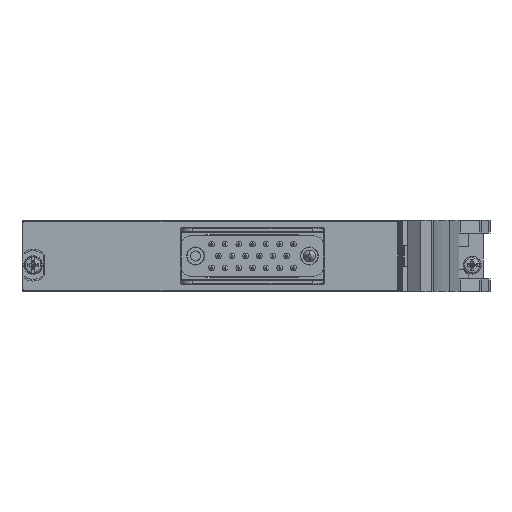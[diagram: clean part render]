
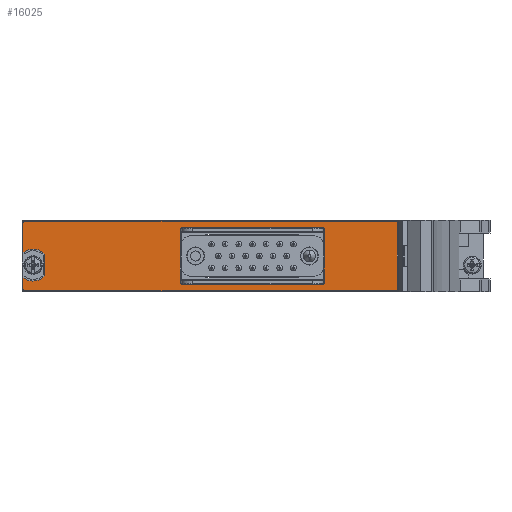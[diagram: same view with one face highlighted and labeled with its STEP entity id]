
A CAD part, left-side view. The second image highlights one B-rep face of the part: STEP entity #16025.
In plain terms, the highlighted planar face has unit normal (-1, 0, 0).
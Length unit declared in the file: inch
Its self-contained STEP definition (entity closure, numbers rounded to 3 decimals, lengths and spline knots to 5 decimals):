
#4060=CARTESIAN_POINT('',(-4.294,0.53465,0.663));
#4061=DIRECTION('',(-1.,0.,0.));
#4062=DIRECTION('',(0.,0.,1.));
#4063=AXIS2_PLACEMENT_3D('',#4060,#4061,#4062);
#4065=DIRECTION('',(0.,1.,0.));
#4066=VECTOR('',#4065,4.07);
#4067=CARTESIAN_POINT('',(-4.294,-3.53535,0.683));
#4068=LINE('',#4067,#4066);
#4069=CARTESIAN_POINT('',(-4.294,-3.53535,0.663));
#4070=DIRECTION('',(-1.,0.,0.));
#4071=DIRECTION('',(0.,-1.,0.));
#4072=AXIS2_PLACEMENT_3D('',#4069,#4070,#4071);
#4074=DIRECTION('',(0.,0.,1.));
#4075=VECTOR('',#4074,0.728);
#4076=CARTESIAN_POINT('',(-4.294,-3.55535,-0.065));
#4077=LINE('',#4076,#4075);
#4078=CARTESIAN_POINT('',(-4.294,-3.53535,-0.065));
#4079=DIRECTION('',(-1.,0.,0.));
#4080=DIRECTION('',(0.,0.,-1.));
#4081=AXIS2_PLACEMENT_3D('',#4078,#4079,#4080);
#4083=DIRECTION('',(0.,-1.,0.));
#4084=VECTOR('',#4083,4.07);
#4085=CARTESIAN_POINT('',(-4.294,0.53465,-0.085));
#4086=LINE('',#4085,#4084);
#4087=CARTESIAN_POINT('',(-4.294,0.53465,-0.065));
#4088=DIRECTION('',(-1.,0.,0.));
#4089=DIRECTION('',(0.,1.,0.));
#4090=AXIS2_PLACEMENT_3D('',#4087,#4088,#4089);
#4092=DIRECTION('',(0.,0.,-1.));
#4093=VECTOR('',#4092,0.12953);
#4094=CARTESIAN_POINT('',(-4.294,0.55465,0.06453));
#4095=LINE('',#4094,#4093);
#4096=CARTESIAN_POINT('',(-4.294,0.44265,0.199));
#4097=DIRECTION('',(1.,0.,0.));
#4098=DIRECTION('',(0.,-0.737,-0.676));
#4099=AXIS2_PLACEMENT_3D('',#4096,#4097,#4098);
#4101=DIRECTION('',(0.,0.,-1.));
#4102=VECTOR('',#4101,0.23651);
#4103=CARTESIAN_POINT('',(-4.294,0.31365,0.31725));
#4104=LINE('',#4103,#4102);
#4105=CARTESIAN_POINT('',(-4.294,0.44265,0.199));
#4106=DIRECTION('',(1.,0.,0.));
#4107=DIRECTION('',(0.,0.64,0.768));
#4108=AXIS2_PLACEMENT_3D('',#4105,#4106,#4107);
#4110=DIRECTION('',(0.,0.,-1.));
#4111=VECTOR('',#4110,0.32953);
#4112=CARTESIAN_POINT('',(-4.294,0.55465,0.663));
#4113=LINE('',#4112,#4111);
#4114=DIRECTION('',(0.,1.,0.));
#4115=VECTOR('',#4114,1.52);
#4116=CARTESIAN_POINT('',(-4.294,-2.72535,0.616));
#4117=LINE('',#4116,#4115);
#4118=DIRECTION('',(0.,0.,-1.));
#4119=VECTOR('',#4118,0.573);
#4120=CARTESIAN_POINT('',(-4.294,-1.17535,0.586));
#4121=LINE('',#4120,#4119);
#4122=DIRECTION('',(0.,-1.,0.));
#4123=VECTOR('',#4122,1.52);
#4124=CARTESIAN_POINT('',(-4.294,-1.20535,-0.017));
#4125=LINE('',#4124,#4123);
#4126=DIRECTION('',(0.,0.,1.));
#4127=VECTOR('',#4126,0.573);
#4128=CARTESIAN_POINT('',(-4.294,-2.75535,0.013));
#4129=LINE('',#4128,#4127);
#4198=CARTESIAN_POINT('',(-4.294,-2.72535,0.013));
#4199=DIRECTION('',(1.,0.,0.));
#4200=DIRECTION('',(0.,-1.,0.));
#4201=AXIS2_PLACEMENT_3D('',#4198,#4199,#4200);
#4211=CARTESIAN_POINT('',(-4.294,-2.72535,0.586));
#4212=DIRECTION('',(1.,0.,0.));
#4213=DIRECTION('',(0.,0.,1.));
#4214=AXIS2_PLACEMENT_3D('',#4211,#4212,#4213);
#4216=CARTESIAN_POINT('',(-4.294,-1.20535,0.013));
#4217=DIRECTION('',(1.,0.,0.));
#4218=DIRECTION('',(0.,0.,-1.));
#4219=AXIS2_PLACEMENT_3D('',#4216,#4217,#4218);
#4229=CARTESIAN_POINT('',(-4.294,-1.20535,0.586));
#4230=DIRECTION('',(1.,0.,0.));
#4231=DIRECTION('',(0.,1.,0.));
#4232=AXIS2_PLACEMENT_3D('',#4229,#4230,#4231);
#10301=CARTESIAN_POINT('',(-4.294,0.53465,0.683));
#10302=CARTESIAN_POINT('',(-4.294,0.55465,0.663));
#10303=VERTEX_POINT('',#10301);
#10304=VERTEX_POINT('',#10302);
#10305=CARTESIAN_POINT('',(-4.294,0.55465,0.33347));
#10306=VERTEX_POINT('',#10305);
#10307=CARTESIAN_POINT('',(-4.294,0.31365,0.31725));
#10308=VERTEX_POINT('',#10307);
#10309=CARTESIAN_POINT('',(-4.294,0.31365,0.08075));
#10310=VERTEX_POINT('',#10309);
#10311=CARTESIAN_POINT('',(-4.294,0.55465,0.06453));
#10312=VERTEX_POINT('',#10311);
#10313=CARTESIAN_POINT('',(-4.294,0.55465,-0.065));
#10314=VERTEX_POINT('',#10313);
#10315=CARTESIAN_POINT('',(-4.294,0.53465,-0.085));
#10316=VERTEX_POINT('',#10315);
#10317=CARTESIAN_POINT('',(-4.294,-3.53535,-0.085));
#10318=VERTEX_POINT('',#10317);
#10319=CARTESIAN_POINT('',(-4.294,-3.55535,-0.065));
#10320=VERTEX_POINT('',#10319);
#10321=CARTESIAN_POINT('',(-4.294,-3.55535,0.663));
#10322=VERTEX_POINT('',#10321);
#10323=CARTESIAN_POINT('',(-4.294,-3.53535,0.683));
#10324=VERTEX_POINT('',#10323);
#10325=CARTESIAN_POINT('',(-4.294,-1.20535,-0.017));
#10326=CARTESIAN_POINT('',(-4.294,-2.72535,-0.017));
#10327=VERTEX_POINT('',#10325);
#10328=VERTEX_POINT('',#10326);
#10329=CARTESIAN_POINT('',(-4.294,-2.75535,0.013));
#10330=CARTESIAN_POINT('',(-4.294,-2.75535,0.586));
#10331=VERTEX_POINT('',#10329);
#10332=VERTEX_POINT('',#10330);
#10333=CARTESIAN_POINT('',(-4.294,-2.72535,0.616));
#10334=CARTESIAN_POINT('',(-4.294,-1.20535,0.616));
#10335=VERTEX_POINT('',#10333);
#10336=VERTEX_POINT('',#10334);
#10337=CARTESIAN_POINT('',(-4.294,-1.17535,0.586));
#10338=CARTESIAN_POINT('',(-4.294,-1.17535,0.013));
#10339=VERTEX_POINT('',#10337);
#10340=VERTEX_POINT('',#10338);
#15988=CARTESIAN_POINT('',(-4.294,0.44265,0.199));
#15989=DIRECTION('',(-1.,0.,0.));
#15990=DIRECTION('',(0.,0.,1.));
#15991=AXIS2_PLACEMENT_3D('',#15988,#15989,#15990);
#15992=PLANE('',#15991);
#15993=ORIENTED_EDGE('',*,*,#15828,.F.);
#15994=ORIENTED_EDGE('',*,*,#15843,.F.);
#15995=ORIENTED_EDGE('',*,*,#15857,.F.);
#15996=ORIENTED_EDGE('',*,*,#15871,.F.);
#15997=ORIENTED_EDGE('',*,*,#15885,.F.);
#15998=ORIENTED_EDGE('',*,*,#15899,.F.);
#15999=ORIENTED_EDGE('',*,*,#15913,.F.);
#16000=ORIENTED_EDGE('',*,*,#15927,.F.);
#16001=ORIENTED_EDGE('',*,*,#15941,.F.);
#16002=ORIENTED_EDGE('',*,*,#15955,.F.);
#16003=ORIENTED_EDGE('',*,*,#15969,.F.);
#16004=ORIENTED_EDGE('',*,*,#15982,.F.);
#16005=EDGE_LOOP('',(#15993,#15994,#15995,#15996,#15997,#15998,#15999,#16000,
#16001,#16002,#16003,#16004));
#16006=FACE_OUTER_BOUND('',#16005,.F.);
#16008=ORIENTED_EDGE('',*,*,#16007,.T.);
#16010=ORIENTED_EDGE('',*,*,#16009,.F.);
#16012=ORIENTED_EDGE('',*,*,#16011,.T.);
#16014=ORIENTED_EDGE('',*,*,#16013,.F.);
#16016=ORIENTED_EDGE('',*,*,#16015,.T.);
#16018=ORIENTED_EDGE('',*,*,#16017,.F.);
#16020=ORIENTED_EDGE('',*,*,#16019,.T.);
#16022=ORIENTED_EDGE('',*,*,#16021,.F.);
#16023=EDGE_LOOP('',(#16008,#16010,#16012,#16014,#16016,#16018,#16020,#16022));
#16024=FACE_BOUND('',#16023,.F.);
#16025=ADVANCED_FACE('',(#16006,#16024),#15992,.T.);
#4064=CIRCLE('',#4063,0.02);
#4073=CIRCLE('',#4072,0.02);
#4082=CIRCLE('',#4081,0.02);
#4091=CIRCLE('',#4090,0.02);
#4100=CIRCLE('',#4099,0.175);
#4109=CIRCLE('',#4108,0.175);
#4202=CIRCLE('',#4201,0.03);
#4215=CIRCLE('',#4214,0.03);
#4220=CIRCLE('',#4219,0.03);
#4233=CIRCLE('',#4232,0.03);
#15828=EDGE_CURVE('',#10303,#10304,#4064,.T.);
#15843=EDGE_CURVE('',#10324,#10303,#4068,.T.);
#15857=EDGE_CURVE('',#10322,#10324,#4073,.T.);
#15871=EDGE_CURVE('',#10320,#10322,#4077,.T.);
#15885=EDGE_CURVE('',#10318,#10320,#4082,.T.);
#15899=EDGE_CURVE('',#10316,#10318,#4086,.T.);
#15913=EDGE_CURVE('',#10314,#10316,#4091,.T.);
#15927=EDGE_CURVE('',#10312,#10314,#4095,.T.);
#15941=EDGE_CURVE('',#10310,#10312,#4100,.T.);
#15955=EDGE_CURVE('',#10308,#10310,#4104,.T.);
#15969=EDGE_CURVE('',#10306,#10308,#4109,.T.);
#15982=EDGE_CURVE('',#10304,#10306,#4113,.T.);
#16007=EDGE_CURVE('',#10335,#10336,#4117,.T.);
#16009=EDGE_CURVE('',#10339,#10336,#4233,.T.);
#16011=EDGE_CURVE('',#10339,#10340,#4121,.T.);
#16013=EDGE_CURVE('',#10327,#10340,#4220,.T.);
#16015=EDGE_CURVE('',#10327,#10328,#4125,.T.);
#16017=EDGE_CURVE('',#10331,#10328,#4202,.T.);
#16019=EDGE_CURVE('',#10331,#10332,#4129,.T.);
#16021=EDGE_CURVE('',#10335,#10332,#4215,.T.);
